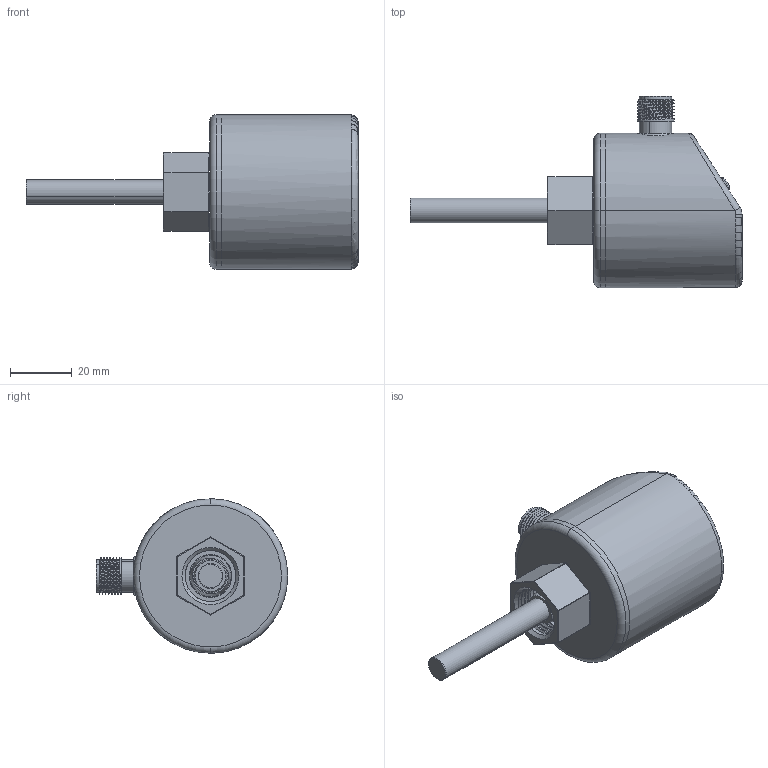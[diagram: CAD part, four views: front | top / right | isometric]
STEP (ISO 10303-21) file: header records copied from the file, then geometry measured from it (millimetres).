
FILE_DESCRIPTION (( 'STEP AP214' ), '1' );
FILE_NAME ('籵蚚倰霜講.STEP', '2024-07-16T09:15:18', ( '' ), ( '' ), 'SwSTEP 2.0', 'SolidWorks 2023', '' );
FILE_SCHEMA (( 'AUTOMOTIVE_DESIGN' ));
Length unit declared in the file: millimetre
Products named in the file (9): 13 - 通用盘装; 通用型流量; 11 - 通用外壳; 06 - 18MN螺母; 05 - 18MN探杆; 流量防尘帽; M12针; 12 - 通用灯罩; M12针套
Assembly tree (11 placements, depth 2):
  通用型流量
    11 - 通用外壳
    12 - 通用灯罩
    05 - 18MN探杆
    06 - 18MN螺母
    流量防尘帽
    13 - 通用盘装
    M12针  x4
    M12针套
Bounding box: 107.6 x 62 x 50 mm (x, y, z)
Volume: 20174.2 mm3; surface area: 31190.7 mm2
Topology: 18 solids, 18 shells, 441 faces, 1052 edges, 654 vertices
Faces by surface type: plane 166, cylinder 159, torus 45, cone 36, bspline 23, sphere 12
Entity records: 16212 total; most frequent: CARTESIAN_POINT 6315, ORIENTED_EDGE 2012, DIRECTION 1987, EDGE_CURVE 1006, AXIS2_PLACEMENT_3D 772, VERTEX_POINT 634, EDGE_LOOP 462, VECTOR 443
